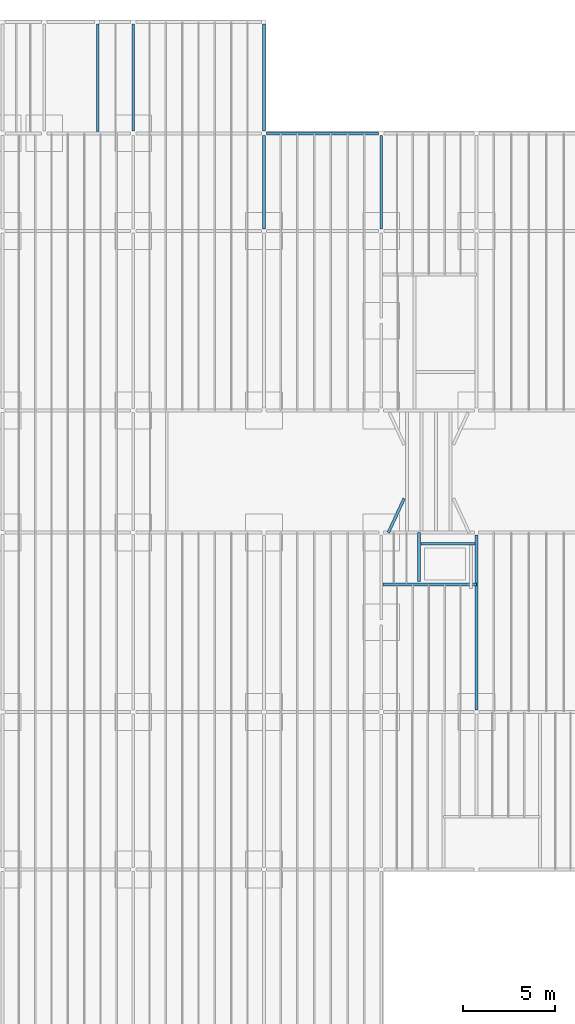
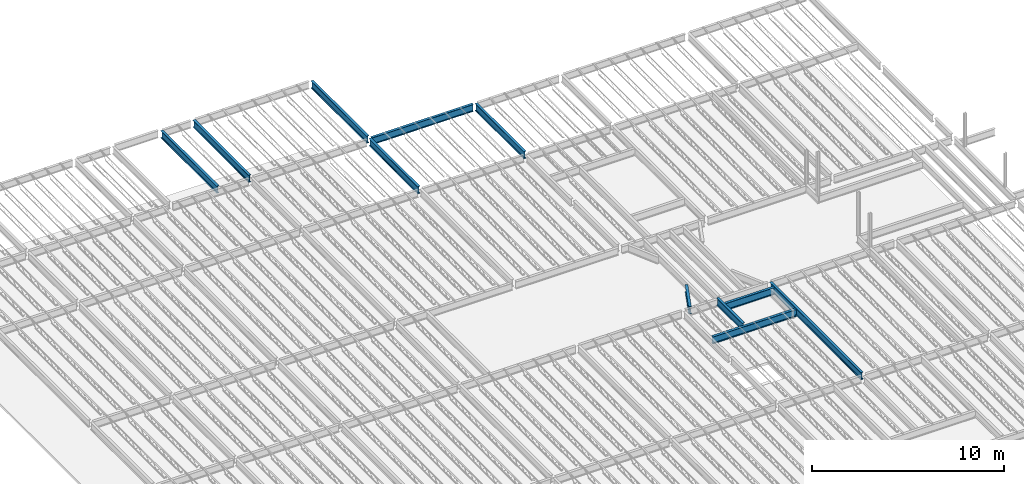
# One storey, part 11 of 75: 11 beams.
"""IFC2X3 building model written with IfcOpenShell, lengths in metres."""

from ifc_helpers import new_model, entity, si_unit, converted_unit, frame, frame_2d, origin, place, context, project, spatial, polyline, circle_curve, parameter, trimmed, segment, composite_curve, outline, extrude, material, element, save


model = new_model("IFC2X3")

# Units and contexts
model_context = context("Model", 3, precision=1e-09, world=origin())
plan_context = context("Plan", 3, precision=1e-09, world=origin())
ifc_project = project(units=[si_unit("LENGTHUNIT", "METRE"), si_unit("AREAUNIT", "SQUARE_METRE"), si_unit("VOLUMEUNIT", "CUBIC_METRE"), converted_unit("PLANEANGLEUNIT", "DEGREE", entity("IfcRatioMeasure", 0.01745329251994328), si_unit("PLANEANGLEUNIT", "RADIAN"), dimensions=[0, 0, 0, 0, 0, 0, 0]), si_unit("TIMEUNIT", "SECOND")], contexts=[model_context, plan_context])

# Site, building, storey
site_placement = place(None, origin())
site = spatial("IfcSite", under=ifc_project, at=site_placement, Name="Default", CompositionType="ELEMENT")
building_placement = place(site_placement, origin())
building = spatial("IfcBuilding", under=site, at=building_placement, CompositionType="ELEMENT")
storey_placement = place(building_placement, origin())
storey = spatial("IfcBuildingStorey", under=building, at=storey_placement, Name="First Floor", CompositionType="ELEMENT", Elevation=-3.531500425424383e-13)

# Beams
ifc_material = material(Name="Metal - Steel - 345 MPa")
beam_1_placement = place(storey_placement, frame((-26.43999999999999, 56.14226323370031, 4.46800000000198), z_axis=(0.0, 0.0, 1.0), x_axis=(-1.0, 0.0, 0.0)))
element("IfcBeam", 1, at=beam_1_placement, inside=storey, material=ifc_material, Name="M_W-Wide Flange:W460X60:W460X60", ObjectType="M_W-Wide Flange:W460X60", context=model_context, shape_type="SweptSolid", body=[
    extrude(outline(composite_curve([segment(polyline([(0.2141999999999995, -0.07649999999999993), (0.2275000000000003, -0.07649999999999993)]), True, "CONTINUOUS"), segment(polyline([(0.2275000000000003, -0.07649999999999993), (0.2275000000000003, 0.07649999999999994)]), True, "CONTINUOUS"), segment(polyline([(0.2275000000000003, 0.07649999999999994), (0.2141999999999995, 0.07649999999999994)]), True, "CONTINUOUS"), segment(polyline([(0.2141999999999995, 0.07649999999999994), (0.2141999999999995, 0.0216999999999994)]), True, "CONTINUOUS"), segment(trimmed(circle_curve(frame_2d((0.1964999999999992, 0.0216999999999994), x_axis=(0.0, 1.0)), 0.0177), [parameter(180.0)], [parameter(269.9999999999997)], True, "PARAMETER"), False, "CONTINUOUS"), segment(polyline([(0.1964999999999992, 0.003999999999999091), (-0.1965000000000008, 0.003999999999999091)]), True, "CONTINUOUS"), segment(trimmed(circle_curve(frame_2d((-0.1965000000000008, 0.0216999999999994), x_axis=(0.0, 1.0)), 0.0177), [parameter(90.00000000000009)], [parameter(179.9999999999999)], True, "PARAMETER"), False, "CONTINUOUS"), segment(polyline([(-0.2142000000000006, 0.0216999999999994), (-0.2142000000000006, 0.07649999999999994)]), True, "CONTINUOUS"), segment(polyline([(-0.2142000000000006, 0.07649999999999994), (-0.2274999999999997, 0.07649999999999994)]), True, "CONTINUOUS"), segment(polyline([(-0.2274999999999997, 0.07649999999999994), (-0.2274999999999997, -0.07649999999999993)]), True, "CONTINUOUS"), segment(polyline([(-0.2274999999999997, -0.07649999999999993), (-0.2142000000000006, -0.07649999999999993)]), True, "CONTINUOUS"), segment(polyline([(-0.2142000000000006, -0.07649999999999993), (-0.2142000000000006, -0.0216999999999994)]), True, "CONTINUOUS"), segment(trimmed(circle_curve(frame_2d((-0.1965000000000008, -0.0216999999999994), x_axis=(0.0, 1.0)), 0.0177), [parameter(359.9999999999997)], [parameter(89.99999999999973)], True, "PARAMETER"), False, "CONTINUOUS"), segment(polyline([(-0.1965000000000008, -0.00399999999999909), (0.1964999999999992, -0.00399999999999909)]), True, "CONTINUOUS"), segment(trimmed(circle_curve(frame_2d((0.1964999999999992, -0.0216999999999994), x_axis=(0.0, 1.0)), 0.0177), [parameter(269.9999999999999)], [parameter(0.0)], True, "PARAMETER"), False, "CONTINUOUS"), segment(polyline([(0.2141999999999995, -0.0216999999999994), (0.2141999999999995, -0.07649999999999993)]), True, "CONTINUOUS")], self_intersect=False)), frame((0.0, 5.937563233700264, -0.2275000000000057), z_axis=(0.0, -1.0, 0.0), x_axis=(0.0, 0.0, -1.0)), (0.0, 0.0, 1.0), 5.820600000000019),
])
beam_2_placement = place(storey_placement, frame((-35.47950959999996, 50.24466263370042, 4.46800000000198)))
element("IfcBeam", 2, at=beam_2_placement, inside=storey, material=ifc_material, Name="M_W-Wide Flange:W460X60:W460X60", ObjectType="M_W-Wide Flange:W460X60", context=model_context, shape_type="SweptSolid", body=[
    extrude(outline(composite_curve([segment(polyline([(-0.07649999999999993, -0.2142), (-0.07649999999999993, -0.2275000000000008)]), True, "CONTINUOUS"), segment(polyline([(-0.07649999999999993, -0.2275000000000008), (0.07649999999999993, -0.2275000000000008)]), True, "CONTINUOUS"), segment(polyline([(0.07649999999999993, -0.2275000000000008), (0.07649999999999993, -0.2142)]), True, "CONTINUOUS"), segment(polyline([(0.07649999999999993, -0.2142), (0.0216999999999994, -0.2142)]), True, "CONTINUOUS"), segment(trimmed(circle_curve(frame_2d((0.0216999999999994, -0.1964999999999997), x_axis=(1.0, 0.0)), 0.0177), [parameter(180.0)], [parameter(269.9999999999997)], True, "PARAMETER"), False, "CONTINUOUS"), segment(polyline([(0.003999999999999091, -0.1964999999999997), (0.003999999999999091, 0.1965000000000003)]), True, "CONTINUOUS"), segment(trimmed(circle_curve(frame_2d((0.0216999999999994, 0.1965000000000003), x_axis=(1.0, 0.0)), 0.0177), [parameter(90.00000000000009)], [parameter(179.9999999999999)], True, "PARAMETER"), False, "CONTINUOUS"), segment(polyline([(0.0216999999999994, 0.2142000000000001), (0.07649999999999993, 0.2142000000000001)]), True, "CONTINUOUS"), segment(polyline([(0.07649999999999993, 0.2142000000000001), (0.07649999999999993, 0.2274999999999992)]), True, "CONTINUOUS"), segment(polyline([(0.07649999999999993, 0.2274999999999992), (-0.07649999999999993, 0.2274999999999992)]), True, "CONTINUOUS"), segment(polyline([(-0.07649999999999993, 0.2274999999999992), (-0.07649999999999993, 0.2142000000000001)]), True, "CONTINUOUS"), segment(polyline([(-0.07649999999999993, 0.2142000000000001), (-0.0216999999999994, 0.2142000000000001)]), True, "CONTINUOUS"), segment(trimmed(circle_curve(frame_2d((-0.0216999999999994, 0.1965000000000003), x_axis=(1.0, 0.0)), 0.0177), [parameter(359.9999999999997)], [parameter(89.99999999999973)], True, "PARAMETER"), False, "CONTINUOUS"), segment(polyline([(-0.003999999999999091, 0.1965000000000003), (-0.003999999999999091, -0.1964999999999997)]), True, "CONTINUOUS"), segment(trimmed(circle_curve(frame_2d((-0.0216999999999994, -0.1964999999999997), x_axis=(1.0, 0.0)), 0.0177), [parameter(269.9999999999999)], [parameter(0.0)], True, "PARAMETER"), False, "CONTINUOUS"), segment(polyline([(-0.0216999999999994, -0.2142), (-0.07649999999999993, -0.2142)]), True, "CONTINUOUS")], self_intersect=False)), frame((0.0, -0.06546263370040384, -0.2275000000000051), z_axis=(0.0, -1.0, 0.0), x_axis=(1.0, 0.0, 0.0)), (0.0, 0.0, -1.0), 5.846100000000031),
])
beam_3_placement = place(storey_placement, frame((-17.99505879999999, 25.43112209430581, 4.46800000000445)))
element("IfcBeam", 3, at=beam_3_placement, inside=storey, material=ifc_material, Name="M_W-Wide Flange:W460X60:W460X60", ObjectType="M_W-Wide Flange:W460X60", context=model_context, shape_type="SweptSolid", body=[
    extrude(outline(composite_curve([segment(polyline([(-0.07649999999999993, -0.2142), (-0.07649999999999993, -0.2275000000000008)]), True, "CONTINUOUS"), segment(polyline([(-0.07649999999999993, -0.2275000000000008), (0.07649999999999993, -0.2275000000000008)]), True, "CONTINUOUS"), segment(polyline([(0.07649999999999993, -0.2275000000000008), (0.07649999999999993, -0.2142)]), True, "CONTINUOUS"), segment(polyline([(0.07649999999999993, -0.2142), (0.02170000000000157, -0.2142)]), True, "CONTINUOUS"), segment(trimmed(circle_curve(frame_2d((0.02170000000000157, -0.1964999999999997), x_axis=(1.0, 0.0)), 0.0177), [parameter(180.0)], [parameter(269.9999999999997)], True, "PARAMETER"), False, "CONTINUOUS"), segment(polyline([(0.004000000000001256, -0.1964999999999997), (0.004000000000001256, 0.1965000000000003)]), True, "CONTINUOUS"), segment(trimmed(circle_curve(frame_2d((0.02170000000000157, 0.1965000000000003), x_axis=(1.0, 0.0)), 0.0177), [parameter(90.00000000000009)], [parameter(179.9999999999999)], True, "PARAMETER"), False, "CONTINUOUS"), segment(polyline([(0.02170000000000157, 0.2142000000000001), (0.07649999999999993, 0.2142000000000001)]), True, "CONTINUOUS"), segment(polyline([(0.07649999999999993, 0.2142000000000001), (0.07649999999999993, 0.2274999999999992)]), True, "CONTINUOUS"), segment(polyline([(0.07649999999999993, 0.2274999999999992), (-0.07649999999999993, 0.2274999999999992)]), True, "CONTINUOUS"), segment(polyline([(-0.07649999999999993, 0.2274999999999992), (-0.07649999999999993, 0.2142000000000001)]), True, "CONTINUOUS"), segment(polyline([(-0.07649999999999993, 0.2142000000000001), (-0.0216999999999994, 0.2142000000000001)]), True, "CONTINUOUS"), segment(trimmed(circle_curve(frame_2d((-0.0216999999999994, 0.1965000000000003), x_axis=(1.0, 0.0)), 0.0177), [parameter(359.9999999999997)], [parameter(89.99999999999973)], True, "PARAMETER"), False, "CONTINUOUS"), segment(polyline([(-0.003999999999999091, 0.1965000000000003), (-0.003999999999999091, -0.1964999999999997)]), True, "CONTINUOUS"), segment(trimmed(circle_curve(frame_2d((-0.0216999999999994, -0.1964999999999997), x_axis=(1.0, 0.0)), 0.0177), [parameter(269.9999999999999)], [parameter(0.0)], True, "PARAMETER"), False, "CONTINUOUS"), segment(polyline([(-0.0216999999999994, -0.2142), (-0.07649999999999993, -0.2142)]), True, "CONTINUOUS")], self_intersect=False)), frame((0.0, 0.2688779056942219, -0.2275000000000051), z_axis=(0.0, -1.0, 0.0), x_axis=(1.0, 0.0, 0.0)), (0.0, 0.0, -1.0), 2.680000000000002),
])
beam_4_placement = place(storey_placement, frame((-14.87997499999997, 18.60859834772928, 4.46800000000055)))
element("IfcBeam", 4, at=beam_4_placement, inside=storey, material=ifc_material, Name="M_W-Wide Flange:W460X60:W460X60", ObjectType="M_W-Wide Flange:W460X60", context=model_context, shape_type="SweptSolid", body=[
    extrude(outline(composite_curve([segment(polyline([(-0.07649999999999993, -0.2142), (-0.07649999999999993, -0.2275000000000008)]), True, "CONTINUOUS"), segment(polyline([(-0.07649999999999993, -0.2275000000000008), (0.07649999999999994, -0.2275000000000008)]), True, "CONTINUOUS"), segment(polyline([(0.07649999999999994, -0.2275000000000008), (0.07649999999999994, -0.2142)]), True, "CONTINUOUS"), segment(polyline([(0.07649999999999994, -0.2142), (0.02170000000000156, -0.2142)]), True, "CONTINUOUS"), segment(trimmed(circle_curve(frame_2d((0.0216999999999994, -0.1964999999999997), x_axis=(0.0, -1.0)), 0.0177), [parameter(269.9999999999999)], [parameter(359.9999999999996)], True, "PARAMETER"), False, "CONTINUOUS"), segment(polyline([(0.004000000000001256, -0.1964999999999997), (0.004000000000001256, 0.1965000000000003)]), True, "CONTINUOUS"), segment(trimmed(circle_curve(frame_2d((0.0216999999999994, 0.1965000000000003), x_axis=(-1.0, 0.0)), 0.0177), [parameter(269.9999999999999)], [parameter(359.9999999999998)], True, "PARAMETER"), False, "CONTINUOUS"), segment(polyline([(0.02170000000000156, 0.2142000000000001), (0.07649999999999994, 0.2142000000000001)]), True, "CONTINUOUS"), segment(polyline([(0.07649999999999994, 0.2142000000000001), (0.07649999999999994, 0.2274999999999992)]), True, "CONTINUOUS"), segment(polyline([(0.07649999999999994, 0.2274999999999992), (-0.07649999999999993, 0.2274999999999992)]), True, "CONTINUOUS"), segment(polyline([(-0.07649999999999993, 0.2274999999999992), (-0.07649999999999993, 0.2142000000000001)]), True, "CONTINUOUS"), segment(polyline([(-0.07649999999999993, 0.2142000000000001), (-0.0216999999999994, 0.2142000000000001)]), True, "CONTINUOUS"), segment(trimmed(circle_curve(frame_2d((-0.02170000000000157, 0.1965000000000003), x_axis=(0.0, 1.0)), 0.0177), [parameter(269.9999999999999)], [parameter(359.9999999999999)], True, "PARAMETER"), False, "CONTINUOUS"), segment(polyline([(-0.003999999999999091, 0.1965000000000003), (-0.003999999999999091, -0.1964999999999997)]), True, "CONTINUOUS"), segment(trimmed(circle_curve(frame_2d((-0.02170000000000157, -0.1964999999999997), x_axis=(1.0, 0.0)), 0.0177), [parameter(269.9999999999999)], [parameter(5.088887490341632e-14)], True, "PARAMETER"), False, "CONTINUOUS"), segment(polyline([(-0.0216999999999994, -0.2142), (-0.07649999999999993, -0.2142)]), True, "CONTINUOUS")], self_intersect=False)), frame((0.0, 0.116101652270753, -0.2275000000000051), z_axis=(0.0, -1.0, 0.0), x_axis=(1.0, 0.0, 0.0)), (0.0, 0.0, -1.0), 9.514099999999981),
])
beam_5_placement = place(storey_placement, frame((-26.44, 50.09257849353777, 4.468000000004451), z_axis=(0.0, 0.0, 1.0), x_axis=(-1.0, 0.0, 0.0)))
element("IfcBeam", 5, at=beam_5_placement, inside=storey, material=ifc_material, Name="M_W-Wide Flange:W460X60:W460X60", ObjectType="M_W-Wide Flange:W460X60", context=model_context, shape_type="SweptSolid", body=[
    extrude(outline(composite_curve([segment(polyline([(0.2142000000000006, -0.07649999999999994), (0.2275000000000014, -0.07649999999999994)]), True, "CONTINUOUS"), segment(polyline([(0.2275000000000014, -0.07649999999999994), (0.2275000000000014, 0.07649999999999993)]), True, "CONTINUOUS"), segment(polyline([(0.2275000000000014, 0.07649999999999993), (0.2142000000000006, 0.07649999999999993)]), True, "CONTINUOUS"), segment(polyline([(0.2142000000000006, 0.07649999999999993), (0.2142000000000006, 0.0216999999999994)]), True, "CONTINUOUS"), segment(trimmed(circle_curve(frame_2d((0.1965000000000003, 0.0216999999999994), x_axis=(1.0, 0.0)), 0.0177), [parameter(269.9999999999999)], [parameter(359.9999999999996)], True, "PARAMETER"), False, "CONTINUOUS"), segment(polyline([(0.1965000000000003, 0.003999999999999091), (-0.1964999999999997, 0.003999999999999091)]), True, "CONTINUOUS"), segment(trimmed(circle_curve(frame_2d((-0.1964999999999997, 0.0216999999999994), x_axis=(0.0, -1.0)), 0.0177), [parameter(269.9999999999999)], [parameter(359.9999999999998)], True, "PARAMETER"), False, "CONTINUOUS"), segment(polyline([(-0.2141999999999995, 0.0216999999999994), (-0.2141999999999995, 0.07649999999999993)]), True, "CONTINUOUS"), segment(polyline([(-0.2141999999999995, 0.07649999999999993), (-0.2274999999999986, 0.07649999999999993)]), True, "CONTINUOUS"), segment(polyline([(-0.2274999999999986, 0.07649999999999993), (-0.2274999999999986, -0.07649999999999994)]), True, "CONTINUOUS"), segment(polyline([(-0.2274999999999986, -0.07649999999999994), (-0.2141999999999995, -0.07649999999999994)]), True, "CONTINUOUS"), segment(polyline([(-0.2141999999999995, -0.07649999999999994), (-0.2141999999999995, -0.0216999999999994)]), True, "CONTINUOUS"), segment(trimmed(circle_curve(frame_2d((-0.1964999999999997, -0.0216999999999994), x_axis=(-1.0, 0.0)), 0.0177), [parameter(269.9999999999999)], [parameter(359.9999999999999)], True, "PARAMETER"), False, "CONTINUOUS"), segment(polyline([(-0.1964999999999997, -0.00399999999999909), (0.1965000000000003, -0.00399999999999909)]), True, "CONTINUOUS"), segment(trimmed(circle_curve(frame_2d((0.1965000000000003, -0.0216999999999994), x_axis=(0.0, 1.0)), 0.0177), [parameter(269.9999999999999)], [parameter(5.088887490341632e-14)], True, "PARAMETER"), False, "CONTINUOUS"), segment(polyline([(0.2142000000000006, -0.0216999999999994), (0.2142000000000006, -0.07649999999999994)]), True, "CONTINUOUS")], self_intersect=False)), frame((0.0, 5.197878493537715, -0.2275000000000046), z_axis=(0.0, -1.0, 0.0), x_axis=(0.0, 0.0, -1.0)), (0.0, 0.0, 1.0), 5.080599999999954),
])
beam_6_placement = place(storey_placement, frame((-17.84808814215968, 27.76106059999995, 4.46800000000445), z_axis=(0.0, 0.0, 1.0), x_axis=(0.0, -1.0, 0.0)))
element("IfcBeam", 6, at=beam_6_placement, inside=storey, material=ifc_material, Name="M_W-Wide Flange:W460X60:W460X60", ObjectType="M_W-Wide Flange:W460X60", context=model_context, shape_type="SweptSolid", body=[
    extrude(outline(composite_curve([segment(polyline([(-0.07650000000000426, -0.2142), (-0.07650000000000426, -0.2275000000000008)]), True, "CONTINUOUS"), segment(polyline([(-0.07650000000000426, -0.2275000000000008), (0.0764999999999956, -0.2275000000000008)]), True, "CONTINUOUS"), segment(polyline([(0.0764999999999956, -0.2275000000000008), (0.0764999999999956, -0.2142)]), True, "CONTINUOUS"), segment(polyline([(0.0764999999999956, -0.2142), (0.02169999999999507, -0.2142)]), True, "CONTINUOUS"), segment(trimmed(circle_curve(frame_2d((0.02169999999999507, -0.1964999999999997), x_axis=(1.0, 0.0)), 0.0177), [parameter(180.0)], [parameter(269.9999999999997)], True, "PARAMETER"), False, "CONTINUOUS"), segment(polyline([(0.00399999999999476, -0.1964999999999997), (0.00399999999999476, 0.1965000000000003)]), True, "CONTINUOUS"), segment(trimmed(circle_curve(frame_2d((0.02169999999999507, 0.1965000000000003), x_axis=(1.0, 0.0)), 0.0177), [parameter(90.00000000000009)], [parameter(179.9999999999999)], True, "PARAMETER"), False, "CONTINUOUS"), segment(polyline([(0.02169999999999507, 0.2142000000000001), (0.0764999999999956, 0.2142000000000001)]), True, "CONTINUOUS"), segment(polyline([(0.0764999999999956, 0.2142000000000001), (0.0764999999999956, 0.2274999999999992)]), True, "CONTINUOUS"), segment(polyline([(0.0764999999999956, 0.2274999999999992), (-0.07650000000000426, 0.2274999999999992)]), True, "CONTINUOUS"), segment(polyline([(-0.07650000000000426, 0.2274999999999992), (-0.07650000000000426, 0.2142000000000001)]), True, "CONTINUOUS"), segment(polyline([(-0.07650000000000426, 0.2142000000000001), (-0.02170000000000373, 0.2142000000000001)]), True, "CONTINUOUS"), segment(trimmed(circle_curve(frame_2d((-0.02170000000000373, 0.1965000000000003), x_axis=(1.0, 0.0)), 0.0177), [parameter(359.9999999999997)], [parameter(89.99999999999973)], True, "PARAMETER"), False, "CONTINUOUS"), segment(polyline([(-0.004000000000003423, 0.1965000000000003), (-0.004000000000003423, -0.1964999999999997)]), True, "CONTINUOUS"), segment(trimmed(circle_curve(frame_2d((-0.02170000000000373, -0.1964999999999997), x_axis=(1.0, 0.0)), 0.0177), [parameter(269.9999999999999)], [parameter(0.0)], True, "PARAMETER"), False, "CONTINUOUS"), segment(polyline([(-0.02170000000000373, -0.2142), (-0.07650000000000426, -0.2142)]), True, "CONTINUOUS")], self_intersect=False)), frame((0.0, -0.04851344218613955, -0.2275000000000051), z_axis=(0.0, -1.0, 0.0), x_axis=(1.0, 0.0, 0.0)), (0.0, 0.0, -1.0), 2.927426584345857),
])
beam_7_placement = place(storey_placement, frame((-33.54999999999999, 56.14226323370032, 4.46800000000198), z_axis=(0.0, 0.0, 1.0), x_axis=(-1.0, 0.0, 0.0)))
element("IfcBeam", 7, at=beam_7_placement, inside=storey, material=ifc_material, Name="M_W-Wide Flange:W460X60:W460X60", ObjectType="M_W-Wide Flange:W460X60", context=model_context, shape_type="SweptSolid", body=[
    extrude(outline(composite_curve([segment(polyline([(0.2141999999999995, -0.07649999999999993), (0.2275000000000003, -0.07649999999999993)]), True, "CONTINUOUS"), segment(polyline([(0.2275000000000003, -0.07649999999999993), (0.2275000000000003, 0.07649999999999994)]), True, "CONTINUOUS"), segment(polyline([(0.2275000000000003, 0.07649999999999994), (0.2141999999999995, 0.07649999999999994)]), True, "CONTINUOUS"), segment(polyline([(0.2141999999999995, 0.07649999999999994), (0.2141999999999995, 0.0216999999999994)]), True, "CONTINUOUS"), segment(trimmed(circle_curve(frame_2d((0.1964999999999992, 0.0216999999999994), x_axis=(0.0, 1.0)), 0.0177), [parameter(180.0)], [parameter(269.9999999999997)], True, "PARAMETER"), False, "CONTINUOUS"), segment(polyline([(0.1964999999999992, 0.003999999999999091), (-0.1965000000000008, 0.003999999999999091)]), True, "CONTINUOUS"), segment(trimmed(circle_curve(frame_2d((-0.1965000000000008, 0.0216999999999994), x_axis=(0.0, 1.0)), 0.0177), [parameter(90.00000000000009)], [parameter(179.9999999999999)], True, "PARAMETER"), False, "CONTINUOUS"), segment(polyline([(-0.2142000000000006, 0.0216999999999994), (-0.2142000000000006, 0.07649999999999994)]), True, "CONTINUOUS"), segment(polyline([(-0.2142000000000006, 0.07649999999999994), (-0.2274999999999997, 0.07649999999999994)]), True, "CONTINUOUS"), segment(polyline([(-0.2274999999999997, 0.07649999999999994), (-0.2274999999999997, -0.07649999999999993)]), True, "CONTINUOUS"), segment(polyline([(-0.2274999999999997, -0.07649999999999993), (-0.2142000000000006, -0.07649999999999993)]), True, "CONTINUOUS"), segment(polyline([(-0.2142000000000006, -0.07649999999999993), (-0.2142000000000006, -0.0216999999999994)]), True, "CONTINUOUS"), segment(trimmed(circle_curve(frame_2d((-0.1965000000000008, -0.0216999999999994), x_axis=(0.0, 1.0)), 0.0177), [parameter(359.9999999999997)], [parameter(89.99999999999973)], True, "PARAMETER"), False, "CONTINUOUS"), segment(polyline([(-0.1965000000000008, -0.00399999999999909), (0.1964999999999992, -0.00399999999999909)]), True, "CONTINUOUS"), segment(trimmed(circle_curve(frame_2d((0.1964999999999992, -0.0216999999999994), x_axis=(0.0, 1.0)), 0.0177), [parameter(269.9999999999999)], [parameter(0.0)], True, "PARAMETER"), False, "CONTINUOUS"), segment(polyline([(0.2141999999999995, -0.0216999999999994), (0.2141999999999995, -0.07649999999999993)]), True, "CONTINUOUS")], self_intersect=False)), frame((0.0, 5.937563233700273, -0.2275000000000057), z_axis=(0.0, -1.0, 0.0), x_axis=(0.0, 0.0, -1.0)), (0.0, 0.0, 1.0), 5.820600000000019),
])
beam_8_placement = place(storey_placement, frame((-19.75790175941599, 25.54506059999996, 4.404500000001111), z_axis=(0.0, 0.0, 1.0), x_axis=(0.0, -1.0, 0.0)))
element("IfcBeam", 8, at=beam_8_placement, inside=storey, material=ifc_material, Name="M_W-Wide Flange:W460X60:W460X60", ObjectType="M_W-Wide Flange:W460X60", context=model_context, shape_type="SweptSolid", body=[
    extrude(outline(composite_curve([segment(polyline([(-0.07649999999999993, -0.2142000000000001), (-0.07649999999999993, -0.2275000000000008)]), True, "CONTINUOUS"), segment(polyline([(-0.07649999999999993, -0.2275000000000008), (0.07649999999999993, -0.2275000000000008)]), True, "CONTINUOUS"), segment(polyline([(0.07649999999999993, -0.2275000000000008), (0.07649999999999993, -0.2142000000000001)]), True, "CONTINUOUS"), segment(polyline([(0.07649999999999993, -0.2142000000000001), (0.0216999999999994, -0.2142000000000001)]), True, "CONTINUOUS"), segment(trimmed(circle_curve(frame_2d((0.0216999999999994, -0.1964999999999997), x_axis=(1.0, 0.0)), 0.0177), [parameter(180.0)], [parameter(269.9999999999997)], True, "PARAMETER"), False, "CONTINUOUS"), segment(polyline([(0.003999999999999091, -0.1964999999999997), (0.003999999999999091, 0.1965000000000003)]), True, "CONTINUOUS"), segment(trimmed(circle_curve(frame_2d((0.0216999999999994, 0.1965000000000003), x_axis=(1.0, 0.0)), 0.0177), [parameter(90.00000000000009)], [parameter(179.9999999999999)], True, "PARAMETER"), False, "CONTINUOUS"), segment(polyline([(0.0216999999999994, 0.2142), (0.07649999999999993, 0.2142)]), True, "CONTINUOUS"), segment(polyline([(0.07649999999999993, 0.2142), (0.07649999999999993, 0.2274999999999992)]), True, "CONTINUOUS"), segment(polyline([(0.07649999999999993, 0.2274999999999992), (-0.07649999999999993, 0.2274999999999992)]), True, "CONTINUOUS"), segment(polyline([(-0.07649999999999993, 0.2274999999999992), (-0.07649999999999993, 0.2142)]), True, "CONTINUOUS"), segment(polyline([(-0.07649999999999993, 0.2142), (-0.0216999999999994, 0.2142)]), True, "CONTINUOUS"), segment(trimmed(circle_curve(frame_2d((-0.0216999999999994, 0.1965000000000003), x_axis=(1.0, 0.0)), 0.0177), [parameter(359.9999999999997)], [parameter(89.99999999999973)], True, "PARAMETER"), False, "CONTINUOUS"), segment(polyline([(-0.003999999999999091, 0.1965000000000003), (-0.003999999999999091, -0.1964999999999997)]), True, "CONTINUOUS"), segment(trimmed(circle_curve(frame_2d((-0.0216999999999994, -0.1964999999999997), x_axis=(1.0, 0.0)), 0.0177), [parameter(269.9999999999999)], [parameter(0.0)], True, "PARAMETER"), False, "CONTINUOUS"), segment(polyline([(-0.0216999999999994, -0.2142000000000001), (-0.07649999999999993, -0.2142000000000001)]), True, "CONTINUOUS")], self_intersect=False)), frame((0.0, -0.2128982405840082, -0.2275000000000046), z_axis=(0.0, -1.0, 0.0), x_axis=(1.0, 0.0, 0.0)), (0.0, 0.0, -1.0), 5.090825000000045),
])
beam_9_placement = place(storey_placement, frame((-26.44214621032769, 50.08999999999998, 4.404500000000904), z_axis=(0.0, 0.0, 1.0), x_axis=(0.0, -1.0, 0.0)))
element("IfcBeam", 9, at=beam_9_placement, inside=storey, material=ifc_material, Name="M_W-Wide Flange:W460X60:W460X60", ObjectType="M_W-Wide Flange:W460X60", context=model_context, shape_type="SweptSolid", body=[
    extrude(outline(composite_curve([segment(polyline([(-0.07649999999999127, -0.2142000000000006), (-0.07649999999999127, -0.2275000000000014)]), True, "CONTINUOUS"), segment(polyline([(-0.07649999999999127, -0.2275000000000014), (0.07650000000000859, -0.2275000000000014)]), True, "CONTINUOUS"), segment(polyline([(0.07650000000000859, -0.2275000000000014), (0.07650000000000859, -0.2142000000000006)]), True, "CONTINUOUS"), segment(polyline([(0.07650000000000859, -0.2142000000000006), (0.02170000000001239, -0.2142000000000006)]), True, "CONTINUOUS"), segment(trimmed(circle_curve(frame_2d((0.02170000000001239, -0.1965000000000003), x_axis=(0.0, -1.0)), 0.0177), [parameter(269.9999999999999)], [parameter(359.9999999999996)], True, "PARAMETER"), False, "CONTINUOUS"), segment(polyline([(0.004000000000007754, -0.1965000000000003), (0.004000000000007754, 0.1964999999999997)]), True, "CONTINUOUS"), segment(trimmed(circle_curve(frame_2d((0.02170000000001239, 0.1964999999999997), x_axis=(-1.0, 0.0)), 0.0177), [parameter(269.9999999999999)], [parameter(359.9999999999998)], True, "PARAMETER"), False, "CONTINUOUS"), segment(polyline([(0.02170000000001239, 0.2141999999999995), (0.07650000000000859, 0.2141999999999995)]), True, "CONTINUOUS"), segment(polyline([(0.07650000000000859, 0.2141999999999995), (0.07650000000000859, 0.2274999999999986)]), True, "CONTINUOUS"), segment(polyline([(0.07650000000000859, 0.2274999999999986), (-0.07649999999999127, 0.2274999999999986)]), True, "CONTINUOUS"), segment(polyline([(-0.07649999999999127, 0.2274999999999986), (-0.07649999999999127, 0.2141999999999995)]), True, "CONTINUOUS"), segment(polyline([(-0.07649999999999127, 0.2141999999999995), (-0.02169999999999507, 0.2141999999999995)]), True, "CONTINUOUS"), segment(trimmed(circle_curve(frame_2d((-0.0216999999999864, 0.1964999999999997), x_axis=(0.0, 1.0)), 0.0177), [parameter(269.9999999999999)], [parameter(359.9999999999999)], True, "PARAMETER"), False, "CONTINUOUS"), segment(polyline([(-0.003999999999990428, 0.1964999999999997), (-0.003999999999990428, -0.1965000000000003)]), True, "CONTINUOUS"), segment(trimmed(circle_curve(frame_2d((-0.0216999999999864, -0.1965000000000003), x_axis=(1.0, 0.0)), 0.0177), [parameter(269.9999999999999)], [parameter(5.088887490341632e-14)], True, "PARAMETER"), False, "CONTINUOUS"), segment(polyline([(-0.02169999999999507, -0.2142000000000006), (-0.07649999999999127, -0.2142000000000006)]), True, "CONTINUOUS")], self_intersect=False)), frame((0.0, 0.1433462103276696, -0.2275000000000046), z_axis=(0.0, -1.0, 0.0), x_axis=(1.0, 0.0, 0.0)), (0.0, 0.0, -1.0), 6.097600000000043),
])
beam_10_placement = place(storey_placement, frame((-18.72244268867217, 30.41435059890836, 4.468000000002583), z_axis=(0.0, 0.0, 1.0), x_axis=(-0.9072712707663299, 0.4205458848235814, 0.0)))
element("IfcBeam", 10, at=beam_10_placement, inside=storey, material=ifc_material, Name="M_W-Wide Flange:W460X60:W460X60", ObjectType="M_W-Wide Flange:W460X60", context=model_context, shape_type="SweptSolid", body=[
    extrude(outline(composite_curve([segment(polyline([(0.2141999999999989, -0.07650000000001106), (0.2274999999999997, -0.07650000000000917)]), True, "CONTINUOUS"), segment(polyline([(0.2274999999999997, -0.07650000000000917), (0.2275000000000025, 0.07649999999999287)]), True, "CONTINUOUS"), segment(polyline([(0.2275000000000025, 0.07649999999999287), (0.2142000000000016, 0.07649999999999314)]), True, "CONTINUOUS"), segment(polyline([(0.2142000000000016, 0.07649999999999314), (0.2142000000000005, 0.02169999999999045)]), True, "CONTINUOUS"), segment(trimmed(circle_curve(frame_2d((0.1965000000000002, 0.021699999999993), x_axis=(0.0, 1.0)), 0.0177), [parameter(180.0)], [parameter(269.9999999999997)], True, "PARAMETER"), False, "CONTINUOUS"), segment(polyline([(0.1965000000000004, 0.003999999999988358), (-0.1964999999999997, 0.004000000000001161)]), True, "CONTINUOUS"), segment(trimmed(circle_curve(frame_2d((-0.1964999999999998, 0.0216999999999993), x_axis=(0.0, 1.0)), 0.0177), [parameter(90.00000000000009)], [parameter(179.9999999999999)], True, "PARAMETER"), False, "CONTINUOUS"), segment(polyline([(-0.2141999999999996, 0.02170000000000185), (-0.2141999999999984, 0.07650000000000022)]), True, "CONTINUOUS"), segment(polyline([(-0.2141999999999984, 0.07650000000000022), (-0.2274999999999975, 0.07649999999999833)]), True, "CONTINUOUS"), segment(polyline([(-0.2274999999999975, 0.07649999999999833), (-0.2275000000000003, -0.0764999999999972)]), True, "CONTINUOUS"), segment(polyline([(-0.2275000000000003, -0.0764999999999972), (-0.2142000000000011, -0.07649999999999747)]), True, "CONTINUOUS"), segment(polyline([(-0.2142000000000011, -0.07649999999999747), (-0.2142, -0.02170000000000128)]), True, "CONTINUOUS"), segment(trimmed(circle_curve(frame_2d((-0.1965000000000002, -0.02170000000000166), x_axis=(0.0, 1.0)), 0.0177), [parameter(359.9999999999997)], [parameter(89.99999999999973)], True, "PARAMETER"), False, "CONTINUOUS"), segment(polyline([(-0.1965000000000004, -0.003999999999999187), (0.1964999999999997, -0.004000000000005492)]), True, "CONTINUOUS"), segment(trimmed(circle_curve(frame_2d((0.1964999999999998, -0.02170000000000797), x_axis=(0.0, 1.0)), 0.0177), [parameter(269.9999999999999)], [parameter(0.0)], True, "PARAMETER"), False, "CONTINUOUS"), segment(polyline([(0.2142000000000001, -0.02170000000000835), (0.2141999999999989, -0.07650000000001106)]), True, "CONTINUOUS")], self_intersect=False)), frame((0.0, 2.24227379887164, -0.2275000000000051), z_axis=(0.0, -1.0, 0.0), x_axis=(0.0, 0.0, -1.0)), (0.0, 0.0, 1.0), 2.031206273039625),
])
beam_11_placement = place(storey_placement, frame((-20.05999999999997, 50.09257849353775, 4.468000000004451), z_axis=(0.0, 0.0, 1.0), x_axis=(-1.0, 0.0, 0.0)))
element("IfcBeam", 11, at=beam_11_placement, inside=storey, material=ifc_material, Name="M_W-Wide Flange:W460X60:W460X60", ObjectType="M_W-Wide Flange:W460X60", context=model_context, shape_type="SweptSolid", body=[
    extrude(outline(composite_curve([segment(polyline([(0.2142000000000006, -0.07649999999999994), (0.2275000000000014, -0.07649999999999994)]), True, "CONTINUOUS"), segment(polyline([(0.2275000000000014, -0.07649999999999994), (0.2275000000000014, 0.07649999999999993)]), True, "CONTINUOUS"), segment(polyline([(0.2275000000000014, 0.07649999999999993), (0.2142000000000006, 0.07649999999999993)]), True, "CONTINUOUS"), segment(polyline([(0.2142000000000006, 0.07649999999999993), (0.2142000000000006, 0.0216999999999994)]), True, "CONTINUOUS"), segment(trimmed(circle_curve(frame_2d((0.1965000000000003, 0.0216999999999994), x_axis=(1.0, 0.0)), 0.0177), [parameter(269.9999999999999)], [parameter(359.9999999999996)], True, "PARAMETER"), False, "CONTINUOUS"), segment(polyline([(0.1965000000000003, 0.003999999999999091), (-0.1964999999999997, 0.003999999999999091)]), True, "CONTINUOUS"), segment(trimmed(circle_curve(frame_2d((-0.1964999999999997, 0.0216999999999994), x_axis=(0.0, -1.0)), 0.0177), [parameter(269.9999999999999)], [parameter(359.9999999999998)], True, "PARAMETER"), False, "CONTINUOUS"), segment(polyline([(-0.2141999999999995, 0.0216999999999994), (-0.2141999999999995, 0.07649999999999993)]), True, "CONTINUOUS"), segment(polyline([(-0.2141999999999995, 0.07649999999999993), (-0.2274999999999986, 0.07649999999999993)]), True, "CONTINUOUS"), segment(polyline([(-0.2274999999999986, 0.07649999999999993), (-0.2274999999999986, -0.07649999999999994)]), True, "CONTINUOUS"), segment(polyline([(-0.2274999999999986, -0.07649999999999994), (-0.2141999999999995, -0.07649999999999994)]), True, "CONTINUOUS"), segment(polyline([(-0.2141999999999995, -0.07649999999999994), (-0.2141999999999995, -0.0216999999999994)]), True, "CONTINUOUS"), segment(trimmed(circle_curve(frame_2d((-0.1964999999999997, -0.0216999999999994), x_axis=(-1.0, 0.0)), 0.0177), [parameter(269.9999999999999)], [parameter(359.9999999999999)], True, "PARAMETER"), False, "CONTINUOUS"), segment(polyline([(-0.1964999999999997, -0.00399999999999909), (0.1965000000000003, -0.00399999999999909)]), True, "CONTINUOUS"), segment(trimmed(circle_curve(frame_2d((0.1965000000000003, -0.0216999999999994), x_axis=(0.0, 1.0)), 0.0177), [parameter(269.9999999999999)], [parameter(5.088887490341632e-14)], True, "PARAMETER"), False, "CONTINUOUS"), segment(polyline([(0.2142000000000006, -0.0216999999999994), (0.2142000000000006, -0.07649999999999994)]), True, "CONTINUOUS")], self_intersect=False)), frame((0.0, 5.197878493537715, -0.2275000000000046), z_axis=(0.0, -1.0, 0.0), x_axis=(0.0, 0.0, -1.0)), (0.0, 0.0, 1.0), 5.080599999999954),
])

save(model, "model.ifc")
